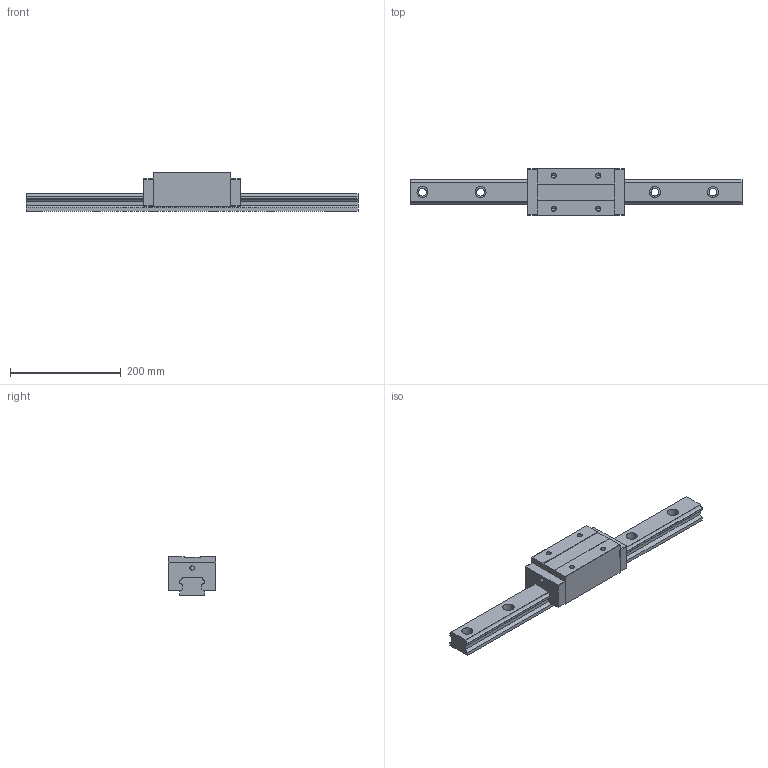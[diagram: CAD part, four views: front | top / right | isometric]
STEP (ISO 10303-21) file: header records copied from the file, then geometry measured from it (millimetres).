
FILE_DESCRIPTION (( 'STEP AP203' ), '1' );
FILE_NAME ('TRH45VE-XN-§ï.STEP', '2023-08-30T05:19:46', ( '' ), ( '' ), 'SwSTEP 2.0', 'SolidWorks 2022', '' );
FILE_SCHEMA (( 'CONFIG_CONTROL_DESIGN' ));
Length unit declared in the file: millimetre
Products named in the file (1): TRH45VE-XN-改
Bounding box: 600 x 85.5 x 70 mm (x, y, z)
Volume: 1423845.9 mm3; surface area: 170934.7 mm2
Topology: 1 solids, 1 shells, 165 faces, 452 edges, 290 vertices
Faces by surface type: plane 77, cylinder 72, cone 16
Entity records: 5293 total; most frequent: DIRECTION 930, CARTESIAN_POINT 900, ORIENTED_EDGE 888, EDGE_CURVE 444, AXIS2_PLACEMENT_3D 320, VERTEX_POINT 290, LINE 290, VECTOR 290
